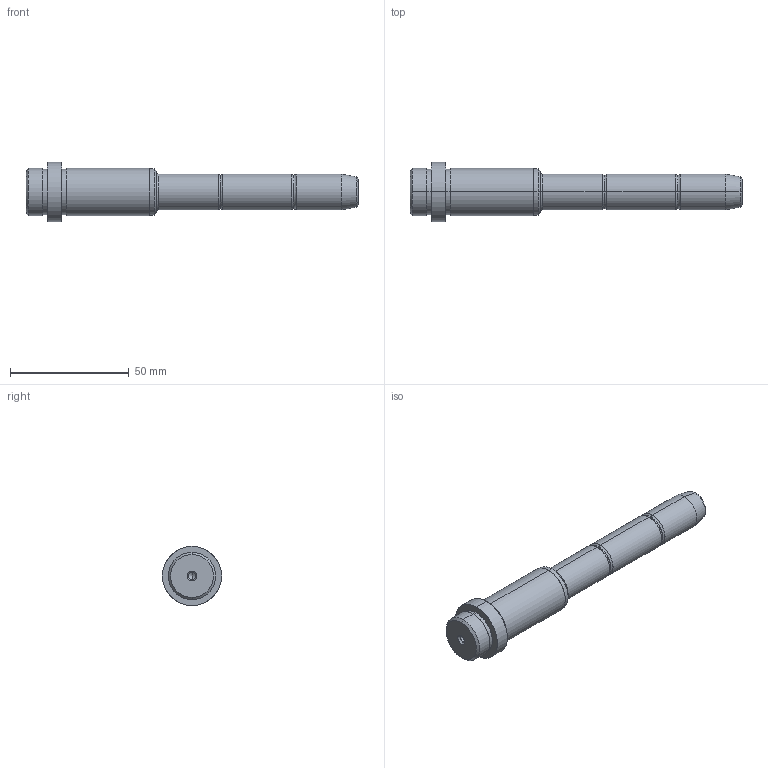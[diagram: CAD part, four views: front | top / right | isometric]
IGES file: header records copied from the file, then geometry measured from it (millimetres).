
Start section: SolidWorks IGES FILE using analytic representation for surfaces
Global section: file name: D:\zzzzz\Delta\D03\15\D03 - 15x46x85.IGS; native system: SolidWorks 2004 by SolidWorks Corporation; preprocessor: Version 5.3; author: Hkn; date: 080327.174624; units: millimetre
Bounding box: 140 x 25 x 25 mm (x, y, z)
Surface area: 8542 mm2 (no closed solid volume)
Topology: 0 solids, 0 shells, 56 faces, 704 edges, 700 vertices
Faces by surface type: revolution 36, bspline 20
